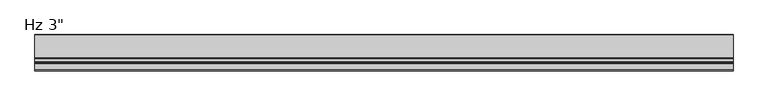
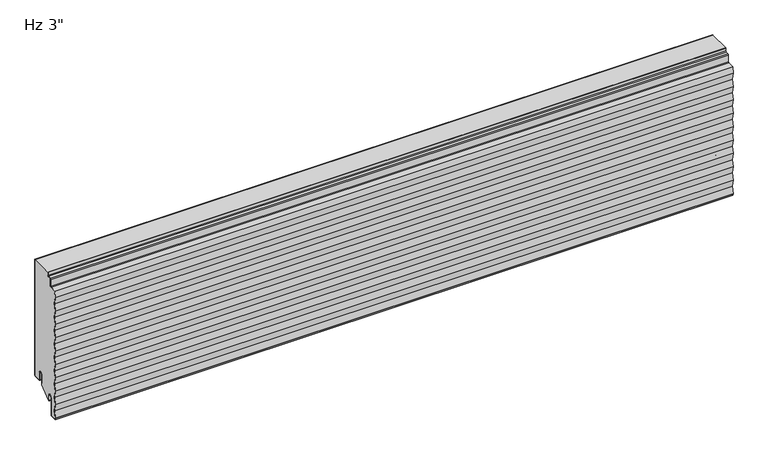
"""IFC4 building model written with IfcOpenShell, lengths in millimetres: plate geometry."""

from ifc_helpers import new_model, si_unit, point, frame, frame_2d, origin, place, context, project, spatial, polyline, circle_curve, trimmed, segment, composite_curve, outline, extrude, source, transform, mapped, element, save
from ifc_brep_helpers import plane_surface, cylinder_surface, revolved_surface, advanced_brep


def plate_854ece45(model_context):
    return source(origin(), model_context, "Body", "SolidModel", [
        extrude(outline(composite_curve([segment(trimmed(circle_curve(frame_2d((-21.43125, 19.05)), 4.96875), [point((-16.4625, 19.05))], [point((-26.4, 19.05))], True, "CARTESIAN"), True, "CONTINUOUS"), segment(polyline([(-26.4, 19.05), (-26.4, -3.1323422), (-49.2157227, -23.01875), (-50.8, -23.01875), (-50.8, -13.5080174), (-51.59375, -13.5080174), (-51.3875, -11.9205174)]), True, "CONTINUOUS"), segment(trimmed(circle_curve(frame_2d((-56.35625, -11.9205174)), 4.96875), [point((-51.3875, -11.9205174))], [point((-61.325, -11.9205174))], True, "CARTESIAN"), True, "CONTINUOUS"), segment(polyline([(-61.325, -11.9205174), (-61.325, -50.1038221)]), True, "CONTINUOUS"), segment(trimmed(circle_curve(frame_2d((-62.70625, -50.1038221)), 1.38125), [point((-61.325, -50.1038221))], [point((-62.633961, -51.4831791))], False, "CARTESIAN"), True, "CONTINUOUS"), segment(polyline([(-62.633961, -51.4831791), (-73.746461, -52.0655606)]), True, "CONTINUOUS"), segment(trimmed(circle_curve(frame_2d((-73.81875, -50.6862035)), 1.38125), [point((-73.746461, -52.0655606))], [point((-75.1310452, -51.1171708))], False, "CARTESIAN"), True, "CONTINUOUS"), segment(polyline([(-75.1310452, -51.1171708), (-75.4936034, -48.8511825), (-73.0552034, -33.6111825), (-75.4936034, -18.3711825), (-73.0552034, -3.1311825), (-75.4936034, 12.1088175), (-73.0552034, 27.3488175), (-75.4936034, 42.5888175), (-73.0552034, 57.8288175), (-75.4936034, 73.0688175), (-73.0552034, 88.3088175), (-75.4936034, 103.5488175), (-73.0552034, 118.7888175), (-75.4936034, 134.0288175), (-73.0552034, 149.2688175), (-75.4936034, 164.5088175), (-73.0552034, 179.7488175), (-75.4936034, 194.9888175), (-73.0552034, 210.2288175), (-75.4611926, 225.26625), (-73.41595, 238.0490161), (-60.1895807, 238.7421807)]), True, "CONTINUOUS"), segment(trimmed(circle_curve(frame_2d((-60.325, 241.3261347)), 2.5875), [point((-60.1895807, 238.7421807))], [point((-57.7375, 241.3261347))], True, "CARTESIAN"), True, "CONTINUOUS"), segment(polyline([(-57.7375, 241.3261347), (-57.7375, 255.4824411)]), True, "CONTINUOUS"), segment(trimmed(circle_curve(frame_2d((-56.35625, 255.4824411)), 1.38125), [point((-57.7375, 255.4824411))], [point((-56.428539, 256.8617981))], False, "CARTESIAN"), True, "CONTINUOUS"), segment(polyline([(-56.428539, 256.8617981), (-50.6645807, 257.1638744)]), True, "CONTINUOUS"), segment(trimmed(circle_curve(frame_2d((-50.8, 259.7478283)), 2.5875), [point((-50.6645807, 257.1638744))], [point((-48.2125, 259.7478283))], True, "CARTESIAN"), True, "CONTINUOUS"), segment(polyline([(-48.2125, 259.7478283), (-48.2125, 266.4), (-1.0, 266.4), (-1.0, 3.175)]), True, "CONTINUOUS"), segment(trimmed(circle_curve(frame_2d((-2.38125, 3.175)), 1.38125), [point((-1.0, 3.175))], [point((-2.38125, 1.79375))], False, "CARTESIAN"), True, "CONTINUOUS"), segment(polyline([(-2.38125, 1.79375), (-15.08125, 1.79375)]), True, "CONTINUOUS"), segment(trimmed(circle_curve(frame_2d((-15.08125, 3.175)), 1.38125), [point((-15.08125, 1.79375))], [point((-16.4625, 3.175))], False, "CARTESIAN"), True, "CONTINUOUS"), segment(polyline([(-16.4625, 3.175), (-16.4625, 19.05)]), True, "CONTINUOUS")], self_intersect=False)), frame((-730.0, 0.0, 0.0), z_axis=(1.0, 0.0, 0.0), x_axis=(0.0, 1.0, 0.0)), (0.0, 0.0, 1.0), 1460.0),
        extrude(outline(composite_curve([segment(polyline([(-25.4, 0.79375), (-26.4, 0.79375), (-26.4, 19.05)]), True, "CONTINUOUS"), segment(trimmed(circle_curve(frame_2d((-21.43125, 19.05)), 4.96875), [point((-26.4, 19.05))], [point((-16.4625, 19.05))], False, "CARTESIAN"), True, "CONTINUOUS"), segment(polyline([(-16.4625, 19.05), (-16.4625, 3.175)]), True, "CONTINUOUS"), segment(trimmed(circle_curve(frame_2d((-15.08125, 3.175)), 1.38125), [point((-16.4625, 3.175))], [point((-15.08125, 1.79375))], True, "CARTESIAN"), True, "CONTINUOUS"), segment(polyline([(-15.08125, 1.79375), (-2.38125, 1.79375)]), True, "CONTINUOUS"), segment(trimmed(circle_curve(frame_2d((-2.38125, 3.175)), 1.38125), [point((-2.38125, 1.79375))], [point((-1.0, 3.175))], True, "CARTESIAN"), True, "CONTINUOUS"), segment(polyline([(-1.0, 3.175), (-1.0, 266.4), (0.0, 266.4), (0.0, 3.175)]), True, "CONTINUOUS"), segment(trimmed(circle_curve(frame_2d((-2.38125, 3.175)), 2.38125), [point((0.0, 3.175))], [point((-2.38125, 0.79375))], False, "CARTESIAN"), True, "CONTINUOUS"), segment(polyline([(-2.38125, 0.79375), (-15.08125, 0.79375)]), True, "CONTINUOUS"), segment(trimmed(circle_curve(frame_2d((-15.08125, 3.175)), 2.38125), [point((-15.08125, 0.79375))], [point((-17.4625, 3.175))], False, "CARTESIAN"), True, "CONTINUOUS"), segment(polyline([(-17.4625, 3.175), (-17.4625, 19.05)]), True, "CONTINUOUS"), segment(trimmed(circle_curve(frame_2d((-21.43125, 19.05)), 3.96875), [point((-17.4625, 19.05))], [point((-25.4, 19.05))], True, "CARTESIAN"), True, "CONTINUOUS"), segment(polyline([(-25.4, 19.05), (-25.4, 0.79375)]), True, "CONTINUOUS")], self_intersect=False)), frame((-730.0, 0.0, 0.0), z_axis=(1.0, 0.0, 0.0), x_axis=(0.0, 1.0, 0.0)), (0.0, 0.0, 1.0), 1460.0),
        advanced_brep(
        [(-730.0, -50.8, -23.2314549), (-730.0, -52.3875, -23.2314549), (-730.0, -52.3875, -11.9205174), (-730.0, -60.325, -11.9205174), (-730.0, -60.325, -50.1038221), (-730.0, -62.581625, -52.4818086), (-730.0, -75.513818, -53.1595562), (-730.0, -76.2, -48.8709186), (-730.0, -73.7616, -33.6309186), (-730.0, -76.2, -18.3909186), (-730.0, -73.7616, -3.1509186), (-730.0, -76.2, 12.0890814), (-730.0, -73.7616, 27.3290814), (-730.0, -76.2, 42.5690814), (-730.0, -73.7616, 57.8090814), (-730.0, -76.2, 73.0490814), (-730.0, -73.7616, 88.2890814), (-730.0, -76.2, 103.5290814), (-730.0, -73.7616, 118.7690814), (-730.0, -76.2, 134.0090814), (-730.0, -73.7616, 149.2490814), (-730.0, -76.2, 164.4890814), (-730.0, -73.7616, 179.7290814), (-730.0, -76.2, 194.9690814), (-730.0, -73.7616, 210.2090814), (-730.0, -76.1837946, 225.3477976), (-730.0, -74.0289309, 239.0182635), (-730.0, -60.2419167, 239.7408103), (-730.0, -58.7375, 241.3261347), (-730.0, -58.7375, 255.4824411), (-730.0, -56.480875, 257.8604276), (-730.0, -50.7169167, 258.1625039), (-730.0, -49.2125, 259.7478283), (-730.0, -49.2125, 266.4), (-730.0, -48.2125, 266.4), (-730.0, -48.2125, 259.7478283), (-730.0, -50.6645807, 257.1638744), (-730.0, -56.428539, 256.8617981), (-730.0, -57.7375, 255.4824411), (-730.0, -57.7375, 241.3261347), (-730.0, -60.1895807, 238.7421807), (-730.0, -73.1692225, 238.0619465), (-730.0, -75.1872809, 225.4490814), (-730.0, -72.7488809, 210.2090814), (-730.0, -75.1872809, 194.9690814), (-730.0, -72.7488809, 179.7290814), (-730.0, -75.1872809, 164.4890814), (-730.0, -72.7488809, 149.2490814), (-730.0, -75.1872809, 134.0090814), (-730.0, -72.7488809, 118.7690814), (-730.0, -75.1872809, 103.5290814), (-730.0, -72.7488809, 88.2890814), (-730.0, -75.1872809, 73.0490814), (-730.0, -72.7488809, 57.8090814), (-730.0, -75.1872809, 42.5690814), (-730.0, -72.7488809, 27.3290814), (-730.0, -75.1872809, 12.0890814), (-730.0, -72.7488809, -3.1509186), (-730.0, -75.1872809, -18.3909186), (-730.0, -72.7488809, -33.6309186), (-730.0, -75.1872809, -48.8709186), (-730.0, -74.6684074, -52.1138777), (-730.0, -62.633961, -51.4831791), (-730.0, -61.325, -50.1038221), (-730.0, -61.325, -11.9205174), (-730.0, -51.3875, -11.9205174), (-730.0, -51.59375, -13.5080174), (-730.0, -50.8, -13.5080174), (730.0, -50.8, -23.2314549), (730.0, -50.8, -13.5080174), (730.0, -51.59375, -13.5080174), (730.0, -51.3875, -11.9205174), (730.0, -61.325, -11.9205174), (730.0, -61.325, -50.1038221), (730.0, -62.633961, -51.4831791), (730.0, -74.6684074, -52.1138777), (730.0, -75.1872809, -48.8709186), (730.0, -72.7488809, -33.6309186), (730.0, -75.1872809, -18.3909186), (730.0, -72.7488809, -3.1509186), (730.0, -75.1872809, 12.0890814), (730.0, -72.7488809, 27.3290814), (730.0, -75.1872809, 42.5690814), (730.0, -72.7488809, 57.8090814), (730.0, -75.1872809, 73.0490814), (730.0, -72.7488809, 88.2890814), (730.0, -75.1872809, 103.5290814), (730.0, -72.7488809, 118.7690814), (730.0, -75.1872809, 134.0090814), (730.0, -72.7488809, 149.2490814), (730.0, -75.1872809, 164.4890814), (730.0, -72.7488809, 179.7290814), (730.0, -75.1872809, 194.9690814), (730.0, -72.7488809, 210.2090814), (730.0, -75.1710755, 225.3477976), (730.0, -73.1692225, 238.0619465), (730.0, -60.1895807, 238.7421807), (730.0, -57.7375, 241.3261347), (730.0, -57.7375, 255.4824411), (730.0, -56.428539, 256.8617981), (730.0, -50.6645807, 257.1638744), (730.0, -48.2125, 259.7478283), (730.0, -48.2125, 266.4), (730.0, -49.2125, 266.4), (730.0, -49.2125, 259.7478283), (730.0, -50.7169167, 258.1625039), (730.0, -56.480875, 257.8604276), (730.0, -58.7375, 255.4824411), (730.0, -58.7375, 241.3261347), (730.0, -60.2419167, 239.7408103), (730.0, -74.0289309, 239.0182635), (730.0, -76.2, 225.4490814), (730.0, -73.7616, 210.2090814), (730.0, -76.2, 194.9690814), (730.0, -73.7616, 179.7290814), (730.0, -76.2, 164.4890814), (730.0, -73.7616, 149.2490814), (730.0, -76.2, 134.0090814), (730.0, -73.7616, 118.7690814), (730.0, -76.2, 103.5290814), (730.0, -73.7616, 88.2890814), (730.0, -76.2, 73.0490814), (730.0, -73.7616, 57.8090814), (730.0, -76.2, 42.5690814), (730.0, -73.7616, 27.3290814), (730.0, -76.2, 12.0890814), (730.0, -73.7616, -3.1509186), (730.0, -76.2, -18.3909186), (730.0, -73.7616, -33.6309186), (730.0, -76.2, -48.8709186), (730.0, -75.513818, -53.1595562), (730.0, -62.581625, -52.4818086), (730.0, -60.325, -50.1038221), (730.0, -60.325, -11.9205174), (730.0, -52.3875, -11.9205174), (730.0, -52.3875, -23.2314549)],
        [
            (0, 1, circle_curve(frame((-730.0, -51.59375, -23.2314549), z_axis=(-1.0, 0.0, 0.0), x_axis=(0.0, 0.0, 1.0)), 0.79375)),
            (1, 2),
            (2, 3, circle_curve(frame((-730.0, -56.35625, -11.9205174), z_axis=(1.0, 0.0, 0.0), x_axis=(0.0, 0.0, 1.0)), 3.96875)),
            (3, 4),
            (4, 5, circle_curve(frame((-730.0, -62.70625, -50.1038221), z_axis=(-1.0, 0.0, 0.0), x_axis=(0.0, 0.0, 1.0)), 2.38125)),
            (5, 6),
            (6, 7),
            (7, 8),
            (8, 9),
            (9, 10),
            (10, 11),
            (11, 12),
            (12, 13),
            (13, 14),
            (14, 15),
            (15, 16),
            (16, 17),
            (17, 18),
            (18, 19),
            (19, 20),
            (20, 21),
            (21, 22),
            (22, 23),
            (23, 24),
            (24, 25),
            (25, 26),
            (26, 27),
            (27, 28, circle_curve(frame((-730.0, -60.325, 241.3261347), z_axis=(1.0, 0.0, 0.0), x_axis=(0.0, 0.0, 1.0)), 1.5875)),
            (28, 29),
            (29, 30, circle_curve(frame((-730.0, -56.35625, 255.4824411), z_axis=(-1.0, 0.0, 0.0), x_axis=(0.0, 0.0, 1.0)), 2.38125)),
            (30, 31),
            (31, 32, circle_curve(frame((-730.0, -50.8, 259.7478283), z_axis=(1.0, 0.0, 0.0), x_axis=(0.0, 0.0, 1.0)), 1.5875)),
            (32, 33),
            (33, 34),
            (34, 35),
            (35, 36, circle_curve(frame((-730.0, -50.8, 259.7478283), z_axis=(-1.0, 0.0, 0.0), x_axis=(0.0, 0.0, 1.0)), 2.5875)),
            (36, 37),
            (37, 38, circle_curve(frame((-730.0, -56.35625, 255.4824411), z_axis=(1.0, 0.0, 0.0), x_axis=(0.0, 0.0, 1.0)), 1.38125)),
            (38, 39),
            (39, 40, circle_curve(frame((-730.0, -60.325, 241.3261347), z_axis=(-1.0, 0.0, 0.0), x_axis=(0.0, 0.0, 1.0)), 2.5875)),
            (40, 41),
            (41, 42),
            (42, 43),
            (43, 44),
            (44, 45),
            (45, 46),
            (46, 47),
            (47, 48),
            (48, 49),
            (49, 50),
            (50, 51),
            (51, 52),
            (52, 53),
            (53, 54),
            (54, 55),
            (55, 56),
            (56, 57),
            (57, 58),
            (58, 59),
            (59, 60),
            (60, 61),
            (61, 62),
            (62, 63, circle_curve(frame((-730.0, -62.70625, -50.1038221), z_axis=(1.0, 0.0, 0.0), x_axis=(0.0, 0.0, 1.0)), 1.38125)),
            (63, 64),
            (64, 65, circle_curve(frame((-730.0, -56.35625, -11.9205174), z_axis=(-1.0, 0.0, 0.0), x_axis=(0.0, 0.0, 1.0)), 4.96875)),
            (65, 66),
            (66, 67),
            (67, 0),
            (68, 69),
            (69, 70),
            (70, 71),
            (71, 72, circle_curve(frame((730.0, -56.35625, -11.9205174), z_axis=(1.0, 0.0, 0.0), x_axis=(0.0, 0.0, 1.0)), 4.96875)),
            (72, 73),
            (73, 74, circle_curve(frame((730.0, -62.70625, -50.1038221), z_axis=(-1.0, 0.0, 0.0), x_axis=(0.0, 0.0, 1.0)), 1.38125)),
            (74, 75),
            (75, 76),
            (76, 77),
            (77, 78),
            (78, 79),
            (79, 80),
            (80, 81),
            (81, 82),
            (82, 83),
            (83, 84),
            (84, 85),
            (85, 86),
            (86, 87),
            (87, 88),
            (88, 89),
            (89, 90),
            (90, 91),
            (91, 92),
            (92, 93),
            (93, 94),
            (94, 95),
            (95, 96),
            (96, 97, circle_curve(frame((730.0, -60.325, 241.3261347), z_axis=(1.0, 0.0, 0.0), x_axis=(0.0, 0.0, 1.0)), 2.5875)),
            (97, 98),
            (98, 99, circle_curve(frame((730.0, -56.35625, 255.4824411), z_axis=(-1.0, 0.0, 0.0), x_axis=(0.0, 0.0, 1.0)), 1.38125)),
            (99, 100),
            (100, 101, circle_curve(frame((730.0, -50.8, 259.7478283), z_axis=(1.0, 0.0, 0.0), x_axis=(0.0, 0.0, 1.0)), 2.5875)),
            (101, 102),
            (102, 103),
            (103, 104),
            (104, 105, circle_curve(frame((730.0, -50.8, 259.7478283), z_axis=(-1.0, 0.0, 0.0), x_axis=(0.0, 0.0, 1.0)), 1.5875)),
            (105, 106),
            (106, 107, circle_curve(frame((730.0, -56.35625, 255.4824411), z_axis=(1.0, 0.0, 0.0), x_axis=(0.0, 0.0, 1.0)), 2.38125)),
            (107, 108),
            (108, 109, circle_curve(frame((730.0, -60.325, 241.3261347), z_axis=(-1.0, 0.0, 0.0), x_axis=(0.0, 0.0, 1.0)), 1.5875)),
            (109, 110),
            (110, 111),
            (111, 112),
            (112, 113),
            (113, 114),
            (114, 115),
            (115, 116),
            (116, 117),
            (117, 118),
            (118, 119),
            (119, 120),
            (120, 121),
            (121, 122),
            (122, 123),
            (123, 124),
            (124, 125),
            (125, 126),
            (126, 127),
            (127, 128),
            (128, 129),
            (129, 130),
            (130, 131),
            (131, 132, circle_curve(frame((730.0, -62.70625, -50.1038221), z_axis=(1.0, 0.0, 0.0), x_axis=(0.0, 0.0, 1.0)), 2.38125)),
            (132, 133),
            (133, 134, circle_curve(frame((730.0, -56.35625, -11.9205174), z_axis=(-1.0, 0.0, 0.0), x_axis=(0.0, 0.0, 1.0)), 3.96875)),
            (134, 135),
            (135, 68, circle_curve(frame((730.0, -51.59375, -23.2314549), z_axis=(1.0, 0.0, 0.0), x_axis=(0.0, 0.0, 1.0)), 0.79375)),
            (61, 75),
            (74, 62),
            (73, 63),
            (72, 64),
            (71, 65),
            (66, 70),
            (69, 67),
            (39, 97),
            (96, 40),
            (37, 99),
            (98, 38),
            (35, 101),
            (100, 36),
            (34, 102),
            (103, 33),
            (32, 104),
            (30, 106),
            (105, 31),
            (28, 108),
            (107, 29),
            (27, 109),
            (5, 131),
            (130, 6),
            (3, 133),
            (132, 4),
            (1, 135),
            (134, 2),
            (68, 0),
            (46, 90),
            (89, 47),
            (88, 48),
            (87, 49),
            (26, 110),
            (95, 41),
            (24, 112),
            (111, 25),
            (42, 94),
            (93, 43),
            (92, 44),
            (91, 45),
            (21, 115),
            (114, 22),
            (113, 23),
            (20, 116),
            (18, 118),
            (117, 19),
            (16, 120),
            (119, 17),
            (14, 122),
            (121, 15),
            (12, 124),
            (123, 13),
            (10, 126),
            (125, 11),
            (8, 128),
            (127, 9),
            (129, 7),
            (59, 77),
            (76, 60),
            (57, 79),
            (78, 58),
            (55, 81),
            (80, 56),
            (53, 83),
            (82, 54),
            (51, 85),
            (84, 52),
            (86, 50),
        ],
        [
            plane_surface(frame((-730.0, -76.2, 152.4), z_axis=(-1.0, 0.0, 0.0), x_axis=(0.0, -1.0, 0.0))),
            plane_surface(frame((730.0, -76.2, 152.4), z_axis=(1.0, 0.0, 0.0), x_axis=(0.0, -1.0, 0.0))),
            plane_surface(frame((-730.0, -62.633961, -51.4831791), z_axis=(0.0, -0.052335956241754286, 0.9986295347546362), x_axis=(1.0, 0.0, 0.0))),
            revolved_surface(polyline([(730.0, -62.70625, -48.7225721), (-730.0, -62.70625, -48.7225721)]), (-730.0, -62.70625, -50.1038221), (1.0, 0.0, 0.0)),
            plane_surface(frame((-730.0, -61.325, -11.9205174), z_axis=(0.0, -1.0, 0.0), x_axis=(1.0, 0.0, 0.0))),
            cylinder_surface(frame((-730.0, -56.35625, -11.9205174), z_axis=(-1.0, 0.0, 0.0), x_axis=(0.0, 0.0, 1.0)), 4.96875),
            plane_surface(frame((-730.0, -50.8, -13.5080174), z_axis=(0.0, 0.0, 1.0), x_axis=(1.0, 0.0, 0.0))),
            plane_surface(frame((-730.0, -51.59375, -13.5080174), z_axis=(0.0, 0.9916655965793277, -0.12883844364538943), x_axis=(1.0, 0.0, 0.0))),
            cylinder_surface(frame((-730.0, -60.325, 241.3261347), z_axis=(-1.0, 0.0, 0.0), x_axis=(0.0, 0.0, 1.0)), 2.5875),
            revolved_surface(polyline([(730.0, -56.35625, 256.8636911), (-730.0, -56.35625, 256.8636911)]), (-730.0, -56.35625, 255.4824411), (1.0, 0.0, 0.0)),
            cylinder_surface(frame((-730.0, -50.8, 259.7478283), z_axis=(-1.0, 0.0, 0.0), x_axis=(0.0, 0.0, 1.0)), 2.5875),
            plane_surface(frame((-730.0, -56.428539, 256.8617981), z_axis=(0.0, 0.0523359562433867, -0.9986295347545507), x_axis=(1.0, 0.0, 0.0))),
            plane_surface(frame((-730.0, -57.7375, 241.3261347), z_axis=(0.0, 1.0, 0.0), x_axis=(1.0, 0.0, 0.0))),
            plane_surface(frame((-730.0, -48.2125, 259.7478283), z_axis=(0.0, 1.0, 0.0), x_axis=(1.0, 0.0, 0.0))),
            plane_surface(frame((-730.0, -49.2125, 274.6232326), z_axis=(0.0, -1.0, 0.0), x_axis=(1.0, 0.0, 0.0))),
            plane_surface(frame((-730.0, -50.7169167, 258.1625039), z_axis=(0.0, -0.052335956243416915, 0.9986295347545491), x_axis=(1.0, 0.0, 0.0))),
            revolved_surface(polyline([(730.0, -50.8, 261.33532829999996), (-730.0, -50.8, 261.33532829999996)]), (-730.0, -50.8, 259.7478283), (1.0, 0.0, 0.0)),
            plane_surface(frame((-730.0, -58.7375, 255.4824411), z_axis=(0.0, -1.0, 0.0), x_axis=(1.0, 0.0, 0.0))),
            revolved_surface(polyline([(730.0, -60.325, 242.91363470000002), (-730.0, -60.325, 242.91363470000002)]), (-730.0, -60.325, 241.3261347), (1.0, 0.0, 0.0)),
            cylinder_surface(frame((-730.0, -56.35625, 255.4824411), z_axis=(-1.0, 0.0, 0.0), x_axis=(0.0, 0.0, 1.0)), 2.38125),
            plane_surface(frame((-730.0, -75.513818, -53.1595562), z_axis=(0.0, 0.052335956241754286, -0.9986295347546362), x_axis=(1.0, 0.0, 0.0))),
            plane_surface(frame((-730.0, -60.325, -50.1038221), z_axis=(0.0, 1.0, 0.0), x_axis=(1.0, 0.0, 0.0))),
            plane_surface(frame((-730.0, -52.3875, -11.9205174), z_axis=(0.0, -1.0, 0.0), x_axis=(1.0, 0.0, 0.0))),
            revolved_surface(polyline([(730.0, -56.35625, -7.9517674), (-730.0, -56.35625, -7.9517674)]), (-730.0, -56.35625, -11.9205174), (1.0, 0.0, 0.0)),
            cylinder_surface(frame((-730.0, -62.70625, -50.1038221), z_axis=(-1.0, 0.0, 0.0), x_axis=(0.0, 0.0, 1.0)), 2.38125),
            plane_surface(frame((-730.0, -50.8, -23.2314549), z_axis=(0.0, 1.0, 0.0), x_axis=(1.0, 0.0, 0.0))),
            cylinder_surface(frame((-730.0, -51.59375, -23.2314549), z_axis=(-1.0, 0.0, 0.0), x_axis=(0.0, 0.0, 1.0)), 0.79375),
            plane_surface(frame((-730.0, -72.7488809, 149.2490814), z_axis=(0.0, 0.9874406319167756, 0.15799050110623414), x_axis=(1.0, 0.0, 0.0))),
            plane_surface(frame((-730.0, -75.1872809, 134.0090814), z_axis=(0.0, 0.987440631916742, -0.15799050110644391), x_axis=(1.0, 0.0, 0.0))),
            plane_surface(frame((-730.0, -72.7488809, 118.7690814), z_axis=(0.0, 0.987440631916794, 0.1579905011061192), x_axis=(1.0, 0.0, 0.0))),
            plane_surface(frame((-730.0, -60.2419167, 239.7408103), z_axis=(0.0, -0.052335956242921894, 0.998629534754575), x_axis=(1.0, 0.0, 0.0))),
            plane_surface(frame((-730.0, -73.1692225, 238.0619465), z_axis=(0.0, 0.05233595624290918, -0.9986295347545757), x_axis=(1.0, 0.0, 0.0))),
            plane_surface(frame((-730.0, -76.1837946, 225.3477976), z_axis=(0.0, -0.9874406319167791, -0.15799050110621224), x_axis=(1.0, 0.0, 0.0))),
            plane_surface(frame((-730.0, -72.7488809, 210.2090814), z_axis=(0.0, 0.9874406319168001, 0.15799050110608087), x_axis=(1.0, 0.0, 0.0))),
            plane_surface(frame((-730.0, -75.1872809, 194.9690814), z_axis=(0.0, 0.9874406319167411, -0.15799050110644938), x_axis=(1.0, 0.0, 0.0))),
            plane_surface(frame((-730.0, -72.7488809, 179.7290814), z_axis=(0.0, 0.987440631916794, 0.1579905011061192), x_axis=(1.0, 0.0, 0.0))),
            plane_surface(frame((-730.0, -75.1872809, 164.4890814), z_axis=(0.0, 0.987440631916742, -0.15799050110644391), x_axis=(1.0, 0.0, 0.0))),
            plane_surface(frame((-730.0, -73.7616, 179.7290814), z_axis=(0.0, -0.9874406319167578, 0.15799050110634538), x_axis=(1.0, 0.0, 0.0))),
            plane_surface(frame((-730.0, -76.2, 194.9690814), z_axis=(0.0, -0.9874406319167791, -0.15799050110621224), x_axis=(1.0, 0.0, 0.0))),
            plane_surface(frame((-730.0, -73.7616, 210.2090814), z_axis=(0.0, -0.9874406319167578, 0.15799050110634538), x_axis=(1.0, 0.0, 0.0))),
            plane_surface(frame((-730.0, -75.1872809, 225.4490814), z_axis=(0.0, 0.9874406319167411, -0.15799050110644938), x_axis=(1.0, 0.0, 0.0))),
            plane_surface(frame((-730.0, -74.0289309, 239.0182635), z_axis=(0.0, -0.9874406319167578, 0.15799050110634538), x_axis=(1.0, 0.0, 0.0))),
            plane_surface(frame((-730.0, -76.2, 164.4890814), z_axis=(0.0, -0.9874406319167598, -0.15799050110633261), x_axis=(1.0, 0.0, 0.0))),
            plane_surface(frame((-730.0, -76.2, 134.0090814), z_axis=(0.0, -0.9874406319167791, -0.15799050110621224), x_axis=(1.0, 0.0, 0.0))),
            plane_surface(frame((-730.0, -73.7616, 149.2490814), z_axis=(0.0, -0.9874406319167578, 0.15799050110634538), x_axis=(1.0, 0.0, 0.0))),
            plane_surface(frame((-730.0, -76.2, 103.5290814), z_axis=(0.0, -0.9874406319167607, -0.15799050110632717), x_axis=(1.0, 0.0, 0.0))),
            plane_surface(frame((-730.0, -76.2, 73.0490814), z_axis=(0.0, -0.9874406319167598, -0.15799050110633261), x_axis=(1.0, 0.0, 0.0))),
            plane_surface(frame((-730.0, -73.7616, 88.2890814), z_axis=(0.0, -0.9874406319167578, 0.15799050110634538), x_axis=(1.0, 0.0, 0.0))),
            plane_surface(frame((-730.0, -73.7616, 118.7690814), z_axis=(0.0, -0.9874406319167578, 0.15799050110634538), x_axis=(1.0, 0.0, 0.0))),
            plane_surface(frame((-730.0, -76.2, 42.5690814), z_axis=(0.0, -0.9874406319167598, -0.15799050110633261), x_axis=(1.0, 0.0, 0.0))),
            plane_surface(frame((-730.0, -76.2, 12.0890814), z_axis=(0.0, -0.9874406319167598, -0.15799050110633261), x_axis=(1.0, 0.0, 0.0))),
            plane_surface(frame((-730.0, -73.7616, 27.3290814), z_axis=(0.0, -0.9874406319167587, 0.15799050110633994), x_axis=(1.0, 0.0, 0.0))),
            plane_surface(frame((-730.0, -73.7616, 57.8090814), z_axis=(0.0, -0.9874406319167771, 0.157990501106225), x_axis=(1.0, 0.0, 0.0))),
            plane_surface(frame((-730.0, -76.2, -18.3909186), z_axis=(0.0, -0.9874406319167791, -0.15799050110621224), x_axis=(1.0, 0.0, 0.0))),
            plane_surface(frame((-730.0, -76.2, -48.8709186), z_axis=(0.0, -0.9874406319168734, -0.15799050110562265), x_axis=(1.0, 0.0, 0.0))),
            plane_surface(frame((-730.0, -73.7616, -33.6309186), z_axis=(0.0, -0.9874406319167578, 0.15799050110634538), x_axis=(1.0, 0.0, 0.0))),
            plane_surface(frame((-730.0, -73.7616, -3.1509186), z_axis=(0.0, -0.9874406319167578, 0.15799050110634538), x_axis=(1.0, 0.0, 0.0))),
            plane_surface(frame((-730.0, -75.1872809, -48.8709186), z_axis=(0.0, 0.9874406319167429, -0.15799050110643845), x_axis=(1.0, 0.0, 0.0))),
            plane_surface(frame((-730.0, -75.1872809, -18.3909186), z_axis=(0.0, 0.987440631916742, -0.15799050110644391), x_axis=(1.0, 0.0, 0.0))),
            plane_surface(frame((-730.0, -72.7488809, -33.6309186), z_axis=(0.0, 0.987440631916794, 0.1579905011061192), x_axis=(1.0, 0.0, 0.0))),
            plane_surface(frame((-730.0, -74.6684074, -52.1138777), z_axis=(0.0, 0.987440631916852, 0.1579905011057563), x_axis=(1.0, 0.0, 0.0))),
            plane_surface(frame((-730.0, -75.1872809, 12.0890814), z_axis=(0.0, 0.987440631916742, -0.15799050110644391), x_axis=(1.0, 0.0, 0.0))),
            plane_surface(frame((-730.0, -75.1872809, 42.5690814), z_axis=(0.0, 0.9874406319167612, -0.1579905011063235), x_axis=(1.0, 0.0, 0.0))),
            plane_surface(frame((-730.0, -72.7488809, 27.3290814), z_axis=(0.0, 0.9874406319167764, 0.15799050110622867), x_axis=(1.0, 0.0, 0.0))),
            plane_surface(frame((-730.0, -72.7488809, -3.1509186), z_axis=(0.0, 0.9874406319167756, 0.15799050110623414), x_axis=(1.0, 0.0, 0.0))),
            plane_surface(frame((-730.0, -75.1872809, 73.0490814), z_axis=(0.0, 0.9874406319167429, -0.15799050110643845), x_axis=(1.0, 0.0, 0.0))),
            plane_surface(frame((-730.0, -75.1872809, 103.5290814), z_axis=(0.0, 0.987440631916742, -0.15799050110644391), x_axis=(1.0, 0.0, 0.0))),
            plane_surface(frame((-730.0, -72.7488809, 88.2890814), z_axis=(0.0, 0.9874406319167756, 0.15799050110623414), x_axis=(1.0, 0.0, 0.0))),
            plane_surface(frame((-730.0, -72.7488809, 57.8090814), z_axis=(0.0, 0.9874406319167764, 0.15799050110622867), x_axis=(1.0, 0.0, 0.0))),
            plane_surface(frame((730.0, 10.0, 266.4), z_axis=(0.0, 0.0, 1.0), x_axis=(-1.0, 0.0, 0.0))),
        ],
        [
            (0, [[1, 2, 3, 4, 5, 6, 7, 8, 9, 10, 11, 12, 13, 14, 15, 16, 17, 18, 19, 20, 21, 22, 23, 24, 25, 26, 27, 28, 29, 30, 31, 32, 33, 34, 35, 36, 37, 38, 39, 40, 41, 42, 43, 44, 45, 46, 47, 48, 49, 50, 51, 52, 53, 54, 55, 56, 57, 58, 59, 60, 61, 62, 63, 64, 65, 66, 67, 68]]),
            (1, [[69, 70, 71, 72, 73, 74, 75, 76, 77, 78, 79, 80, 81, 82, 83, 84, 85, 86, 87, 88, 89, 90, 91, 92, 93, 94, 95, 96, 97, 98, 99, 100, 101, 102, 103, 104, 105, 106, 107, 108, 109, 110, 111, 112, 113, 114, 115, 116, 117, 118, 119, 120, 121, 122, 123, 124, 125, 126, 127, 128, 129, 130, 131, 132, 133, 134, 135, 136]]),
            (2, [[137, -75, 138, -62]]),
            (3, [[-138, -74, 139, -63]]),
            (4, [[-139, -73, 140, -64]]),
            (5, [[-140, -72, 141, -65]]),
            (6, [[142, -70, 143, -67]]),
            (7, [[-141, -71, -142, -66]]),
            (8, [[144, -97, 145, -40]]),
            (9, [[146, -99, 147, -38]]),
            (10, [[148, -101, 149, -36]]),
            (11, [[-149, -100, -146, -37]]),
            (12, [[-147, -98, -144, -39]]),
            (13, [[-35, 150, -102, -148]]),
            (14, [[-104, 151, -33, 152]]),
            (15, [[153, -106, 154, -31]]),
            (16, [[-154, -105, -152, -32]]),
            (17, [[155, -108, 156, -29]]),
            (18, [[157, -109, -155, -28]]),
            (19, [[-156, -107, -153, -30]]),
            (20, [[158, -131, 159, -6]]),
            (21, [[160, -133, 161, -4]]),
            (22, [[162, -135, 163, -2]]),
            (23, [[-163, -134, -160, -3]]),
            (24, [[-161, -132, -158, -5]]),
            (25, [[-143, -69, 164, -68]]),
            (26, [[-164, -136, -162, -1]]),
            (27, [[165, -90, 166, -47]]),
            (28, [[-166, -89, 167, -48]]),
            (29, [[-167, -88, 168, -49]]),
            (30, [[169, -110, -157, -27]]),
            (31, [[-145, -96, 170, -41]]),
            (32, [[171, -112, 172, -25]]),
            (33, [[173, -94, 174, -43]]),
            (34, [[-174, -93, 175, -44]]),
            (35, [[-175, -92, 176, -45]]),
            (36, [[-176, -91, -165, -46]]),
            (37, [[177, -115, 178, -22]]),
            (38, [[-178, -114, 179, -23]]),
            (39, [[-179, -113, -171, -24]]),
            (40, [[-170, -95, -173, -42]]),
            (41, [[-172, -111, -169, -26]]),
            (42, [[180, -116, -177, -21]]),
            (43, [[181, -118, 182, -19]]),
            (44, [[-182, -117, -180, -20]]),
            (45, [[183, -120, 184, -17]]),
            (46, [[185, -122, 186, -15]]),
            (47, [[-186, -121, -183, -16]]),
            (48, [[-184, -119, -181, -18]]),
            (49, [[187, -124, 188, -13]]),
            (50, [[189, -126, 190, -11]]),
            (51, [[-190, -125, -187, -12]]),
            (52, [[-188, -123, -185, -14]]),
            (53, [[191, -128, 192, -9]]),
            (54, [[-159, -130, 193, -7]]),
            (55, [[-193, -129, -191, -8]]),
            (56, [[-192, -127, -189, -10]]),
            (57, [[194, -77, 195, -60]]),
            (58, [[196, -79, 197, -58]]),
            (59, [[-197, -78, -194, -59]]),
            (60, [[-195, -76, -137, -61]]),
            (61, [[198, -81, 199, -56]]),
            (62, [[200, -83, 201, -54]]),
            (63, [[-201, -82, -198, -55]]),
            (64, [[-199, -80, -196, -57]]),
            (65, [[202, -85, 203, -52]]),
            (66, [[-168, -87, 204, -50]]),
            (67, [[-204, -86, -202, -51]]),
            (68, [[-203, -84, -200, -53]]),
            (69, [[-151, -103, -150, -34]]),
        ],
    ),
    ])


if __name__ == "__main__":
    model = new_model("IFC4")
    model_context = context("Model", 3, world=origin())
    ifc_project = project(units=[si_unit("LENGTHUNIT", "METRE", prefix="MILLI")], contexts=[model_context])
    site = spatial("IfcSite", under=ifc_project)
    building = spatial("IfcBuilding", under=site)
    placement = place(None, origin())
    plate_shape = plate_854ece45(model_context)
    element("IfcPlate", 1, ObjectType="KIP-12-DWHR-R19-CP-Hz-S : Hz 3\"", at=placement, inside=building, context=model_context, shape_type="MappedRepresentation", body=[
        mapped(plate_shape, transform((0.0, 0.0, 0.0), x_axis=(1.0, 0.0, 0.0), y_axis=(0.0, 1.0, 0.0), z_axis=(0.0, 0.0, 1.0))),
    ])
    save(model, "model.ifc")
